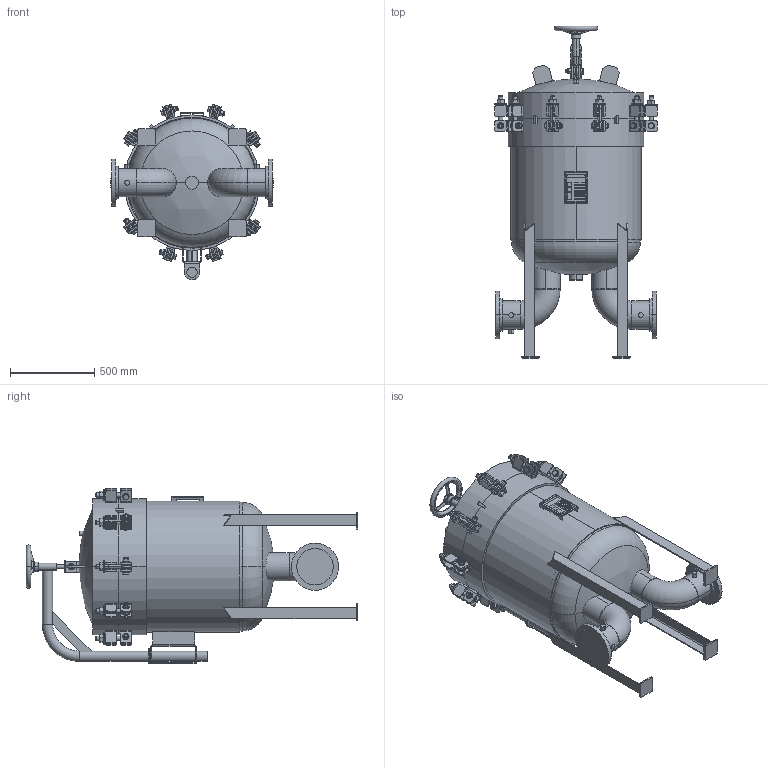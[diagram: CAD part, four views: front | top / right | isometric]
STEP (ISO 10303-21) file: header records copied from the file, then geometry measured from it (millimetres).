
FILE_DESCRIPTION (( 'STEP AP203' ), '1' );
FILE_NAME ('002005-00408.step', '2025-12-09T13:53:34', ( '' ), ( '' ), 'SwSTEP 2.0', 'SolidWorks 2023', '' );
FILE_SCHEMA (( 'CONFIG_CONTROL_DESIGN' ));
Length unit declared in the file: inch
Products named in the file (1): 002005-00408
Bounding box: 962.02 x 1964.8 x 1040.52 mm (x, y, z)
Volume: 309381626.8 mm3; surface area: 9313661.5 mm2
Topology: 38 solids, 38 shells, 2032 faces, 4774 edges, 2967 vertices
Faces by surface type: plane 846, cylinder 602, cone 440, torus 98, bspline 36, sphere 10
Entity records: 66276 total; most frequent: CARTESIAN_POINT 19986, DIRECTION 9766, ORIENTED_EDGE 9524, EDGE_CURVE 4762, AXIS2_PLACEMENT_3D 3885, VERTEX_POINT 2967, EDGE_LOOP 2233, ADVANCED_FACE 2032
